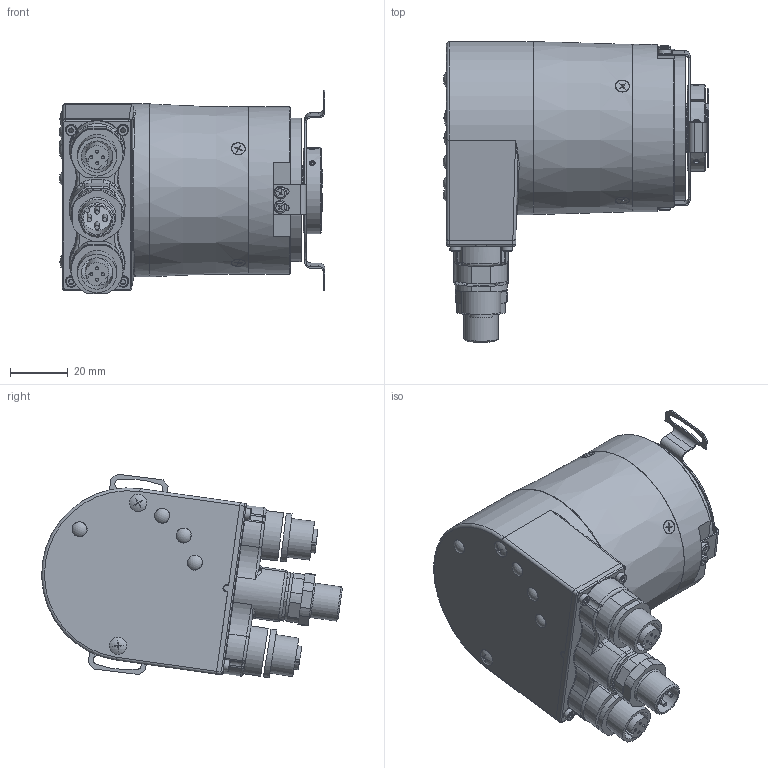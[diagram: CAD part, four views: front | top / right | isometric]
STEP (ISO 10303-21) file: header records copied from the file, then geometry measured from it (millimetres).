
FILE_DESCRIPTION (( 'STEP AP214' ), '1' );
FILE_NAME ('8.5888.54C2.C212.STEP', '2014-09-16T12:14:38', ( 'HeirlerN' ), ( 'Microsoft' ), 'SwSTEP 2.0', 'SolidWorks 2013', '' );
FILE_SCHEMA (( 'AUTOMOTIVE_DESIGN' ));
Length unit declared in the file: millimetre
Products named in the file (1): 8.5888.54C2.C212
Bounding box: 92.17 x 104.23 x 70.55 mm (x, y, z)
Surface area: 39240.4 mm2 (no closed solid volume)
Topology: 0 solids, 41 shells, 609 faces, 1703 edges, 1107 vertices
Faces by surface type: plane 294, cylinder 184, cone 42, torus 41, bspline 34, sphere 14
Full cylindrical faces by diameter (mm): 1.05 x8, 1.5 x4, 2 x1, 2.05 x2, 2.5 x1, 3.8 x4, 4.5 x1, 4.7 x1, 5.1 x4, 5.2 x4, 6 x2, 11 x2, 12 x2, 13.5 x2, 16.5 x1, 17 x1, 30 x1, 32 x1, 34 x1, 58 x1, 60 x1
Entity records: 27265 total; most frequent: CARTESIAN_POINT 5549, DIRECTION 3138, ORIENTED_EDGE 2806, EDGE_CURVE 1611, AXIS2_PLACEMENT_3D 1134, VERTEX_POINT 1095, LINE 870, VECTOR 870
